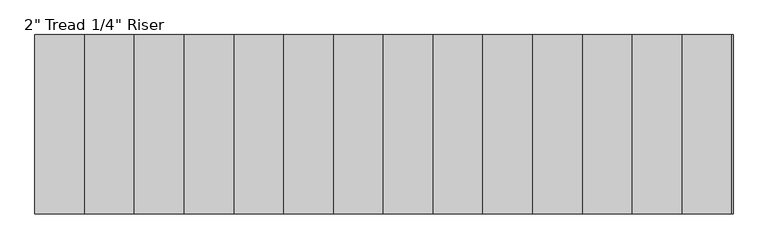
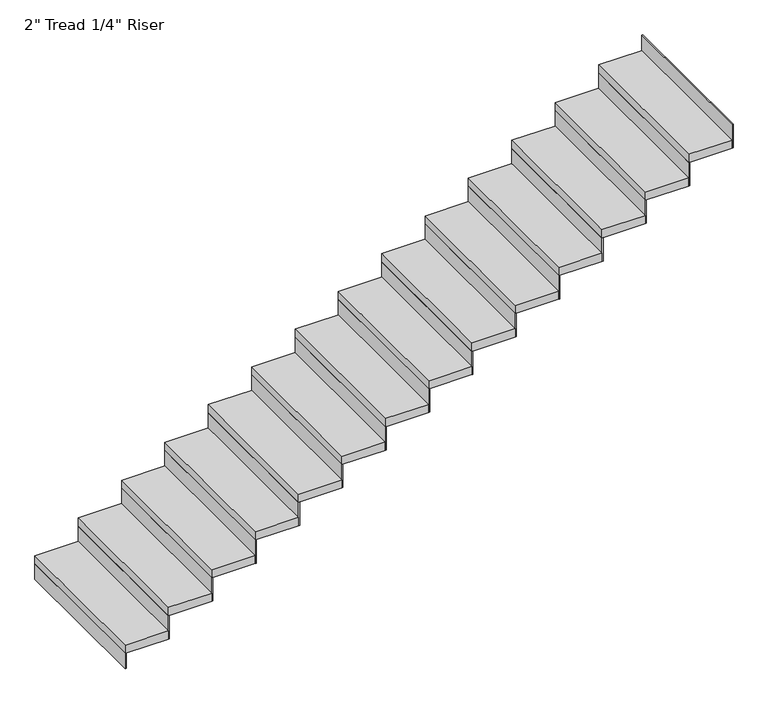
"""IFC4 building model written with IfcOpenShell, lengths in millimetres: stair flight geometry."""

import ifcopenshell
import ifcopenshell.guid

model = None  # the IFC model being written
_history = None  # IfcOwnerHistory: only IFC2X3 demands one
_inside = {}  # id of a spatial element -> (the spatial element, [elements in it])
_under = {}  # id of a project, library or spatial element -> (it, [spatial elements below it])
_declared = {}  # id of a project -> (the project, [libraries it declares])
_typed = {}  # id of a type object -> (the type object, [elements of that type])
_made_of = {}  # id of a material, layer set ... -> (it, [elements and type objects made of it])


def new_model(schema):
    """Start an empty IFC model of exactly this schema.

    Asked for "IFC4X3", IfcOpenShell would pick the latest addendum, in which some entities
    have other attributes; the version numbers below select the first issue.
    IFC2X3 requires an IfcOwnerHistory on every rooted entity: one is made here for all.
    """
    global model, _history
    if schema == "IFC4X3":
        model = ifcopenshell.file(schema_version=(4, 3, 0, 0))
    else:
        model = ifcopenshell.file(schema=schema)
    _inside.clear()
    _under.clear()
    _declared.clear()
    _typed.clear()
    _made_of.clear()
    _history = None
    if model.schema == "IFC2X3":
        org = make("IfcOrganization", Name="unknown")
        user = make(
            "IfcPersonAndOrganization",
            ThePerson=make("IfcPerson", FamilyName="unknown"),
            TheOrganization=org,
        )
        app = make(
            "IfcApplication",
            ApplicationDeveloper=org,
            Version="unknown",
            ApplicationFullName="unknown",
            ApplicationIdentifier="unknown",
        )
        _history = make(
            "IfcOwnerHistory",
            OwningUser=user,
            OwningApplication=app,
            ChangeAction="ADDED",
            CreationDate=0,
        )
    return model


def make(cls, **values):
    """One entity of the class cls with the attributes given. An attribute that is None is left unset."""
    return model.create_entity(
        cls, **{name: value for name, value in values.items() if value is not None}
    )


def rooted(cls, **values):
    """An entity with a GlobalId (a new one), such as an element, a storey or a relation."""
    return make(cls, GlobalId=ifcopenshell.guid.new(), OwnerHistory=_history, **values)


def si_unit(unit_type, name, prefix=None):
    """IfcSIUnit, for example si_unit("LENGTHUNIT", "METRE", prefix="MILLI")."""
    return make("IfcSIUnit", UnitType=unit_type, Prefix=prefix, Name=name)


def assignment(units):
    """IfcUnitAssignment: the units of a project."""
    return None if units is None else make("IfcUnitAssignment", Units=units)


def point(xyz):
    """IfcCartesianPoint."""
    return None if xyz is None else make("IfcCartesianPoint", Coordinates=xyz)


def direction(xyz):
    """IfcDirection."""
    return None if xyz is None else make("IfcDirection", DirectionRatios=xyz)


def frame(location, z_axis=None, x_axis=None):
    """IfcAxis2Placement3D, a coordinate frame: its origin and axes. An axis left out is left unset."""
    return make(
        "IfcAxis2Placement3D",
        Location=point(location),
        Axis=direction(z_axis),
        RefDirection=direction(x_axis),
    )


def origin():
    """The frame at (0, 0, 0) with its axes left unset."""
    return frame((0.0, 0.0, 0.0))


def origin_with_axes():
    """The frame at (0, 0, 0) with the z axis (0, 0, 1) and the x axis (1, 0, 0) written out."""
    return frame((0.0, 0.0, 0.0), z_axis=(0.0, 0.0, 1.0), x_axis=(1.0, 0.0, 0.0))


def place(relative_to, where):
    """IfcLocalPlacement: puts the frame where relative to a parent placement (None: the world)."""
    return make(
        "IfcLocalPlacement", PlacementRelTo=relative_to, RelativePlacement=where
    )


def context(
    kind, dimensions, precision=None, world=None, true_north=None, identifier=None
):
    """IfcGeometricRepresentationContext, for example the 3D "Model" context."""
    return make(
        "IfcGeometricRepresentationContext",
        ContextIdentifier=identifier,
        ContextType=kind,
        CoordinateSpaceDimension=dimensions,
        Precision=precision,
        WorldCoordinateSystem=world,
        TrueNorth=true_north,
    )


def project(units=None, contexts=None):
    """IfcProject with its units and contexts."""
    return rooted(
        "IfcProject",
        Name="project",
        RepresentationContexts=contexts,
        UnitsInContext=assignment(units),
    )


def spatial(cls, under=None, at=None, **own):
    """A site, building, storey or space (cls), placed at a placement, below another one or the project."""
    s = rooted(cls, ObjectPlacement=at, **own)
    if under is not None:
        _under.setdefault(under.id(), (under, []))[1].append(s)
    return s


def polyline(points):
    """IfcPolyline through the points."""
    return make("IfcPolyline", Points=[point(p) for p in points])


def outline(outer, holes=None, kind="AREA"):
    """IfcArbitraryClosedProfileDef: a profile drawn as a closed curve; with holes, ...WithVoids."""
    if holes is None:
        return make("IfcArbitraryClosedProfileDef", ProfileType=kind, OuterCurve=outer)
    return make(
        "IfcArbitraryProfileDefWithVoids",
        ProfileType=kind,
        OuterCurve=outer,
        InnerCurves=holes,
    )


def extrude(swept, where, along, depth):
    """IfcExtrudedAreaSolid: the profile swept, set in the frame where, extruded along a direction by depth."""
    return make(
        "IfcExtrudedAreaSolid",
        SweptArea=swept,
        Position=where,
        ExtrudedDirection=direction(along),
        Depth=depth,
    )


def shape(context_of_items, identifier, shape_type, items):
    """IfcShapeRepresentation: the items that make up one representation, for example the "Body"."""
    return make(
        "IfcShapeRepresentation",
        ContextOfItems=context_of_items,
        RepresentationIdentifier=identifier,
        RepresentationType=shape_type,
        Items=items,
    )


def source(mapping_origin, context_of_items, identifier, shape_type, items):
    """IfcRepresentationMap: a shape defined once, which mapped items show again and again."""
    return make(
        "IfcRepresentationMap",
        MappingOrigin=mapping_origin,
        MappedRepresentation=shape(context_of_items, identifier, shape_type, items),
    )


def transform(
    local_origin,
    x_axis=None,
    y_axis=None,
    z_axis=None,
    scale=None,
    scale2=None,
    scale3=None,
    uniform=True,
):
    """IfcCartesianTransformationOperator3D, or its non-uniform kind. x_axis, y_axis, z_axis: its Axis1, 2, 3."""
    if uniform:
        return make(
            "IfcCartesianTransformationOperator3D",
            Axis1=direction(x_axis),
            Axis2=direction(y_axis),
            LocalOrigin=point(local_origin),
            Scale=scale,
            Axis3=direction(z_axis),
        )
    return make(
        "IfcCartesianTransformationOperator3DnonUniform",
        Axis1=direction(x_axis),
        Axis2=direction(y_axis),
        LocalOrigin=point(local_origin),
        Scale=scale,
        Axis3=direction(z_axis),
        Scale2=scale2,
        Scale3=scale3,
    )


def mapped(mapping_source, mapping_target):
    """IfcMappedItem: shows the shape of a source again, moved by a transform."""
    return make(
        "IfcMappedItem", MappingSource=mapping_source, MappingTarget=mapping_target
    )


def made_of(thing, what):
    """Note that an element or type object is made of a material, layer set ...; save() writes the relation."""
    if what is not None:
        _made_of.setdefault(what.id(), (what, []))[1].append(thing)
    return thing


def element(
    cls,
    number,
    at=None,
    inside=None,
    cuts=None,
    type_object=None,
    material=None,
    context=None,
    identifier="Body",
    shape_type=None,
    held_by="IfcProductDefinitionShape",
    body=None,
    shapes=None,
    **own,
):
    """One element of the class cls, such as IfcWall. Its Tag is "e" and its number.

    at: its placement. inside: the storey or other place that contains it. cuts: it is an
    opening in that element (IfcRelVoidsElement). A single representation is given by context,
    identifier, shape_type and body (its items); several are given by shapes. held_by: the class
    of the entity that holds the representations. save() writes the other relations.
    """
    e = rooted(cls, Tag="e%d" % number, ObjectPlacement=at, **own)
    if body is not None:
        shapes = [shape(context, identifier, shape_type, body)]
    if shapes is not None:
        e.Representation = make(held_by, Representations=shapes)
    if inside is not None:
        _inside.setdefault(inside.id(), (inside, []))[1].append(e)
    if cuts is not None:
        rooted(
            "IfcRelVoidsElement", RelatingBuildingElement=cuts, RelatedOpeningElement=e
        )
    if type_object is not None:
        _typed.setdefault(type_object.id(), (type_object, []))[1].append(e)
    return made_of(e, material)


def aggregate(whole, parts):
    """IfcRelAggregates: a whole, such as a stair, and the parts it consists of."""
    return rooted("IfcRelAggregates", RelatingObject=whole, RelatedObjects=parts)


def save(model, path):
    """Write the relations noted so far, then the file.

    IfcRelAggregates (storeys below a building ...), IfcRelContainedInSpatialStructure (elements
    in a storey), IfcRelDefinesByType, IfcRelAssociatesMaterial and IfcRelDeclares: one each for
    every whole, place, type object, material and project.
    """
    for whole, parts in _under.values():
        aggregate(whole, parts)
    for where, things in _inside.values():
        rooted(
            "IfcRelContainedInSpatialStructure",
            RelatedElements=things,
            RelatingStructure=where,
        )
    for kind, things in _typed.values():
        rooted("IfcRelDefinesByType", RelatedObjects=things, RelatingType=kind)
    for what, things in _made_of.values():
        rooted("IfcRelAssociatesMaterial", RelatedObjects=things, RelatingMaterial=what)
    for by, libraries in _declared.values():
        rooted("IfcRelDeclares", RelatingContext=by, RelatedDefinitions=libraries)
    model.write(path)


def stair_flight_18f07dfd(model_context):
    return source(origin(), model_context, "Body", "SweptSolid", [
        extrude(outline(polyline([(24312.3612561, -2366.2617549), (24306.0112561, -2366.2617549), (24306.0112561, -1451.8617549), (24312.3612561, -1451.8617549), (24312.3612561, -2366.2617549)])), origin_with_axes(), (0.0, 0.0, 1.0), 94.3428571),
        extrude(outline(polyline([(24560.0112561, -1451.8617549), (24560.0112561, -2366.2617549), (24306.0112561, -2366.2617549), (24306.0112561, -1451.8617549), (24560.0112561, -1451.8617549)])), frame((0.0, 0.0, 94.3428571), z_axis=(0.0, 0.0, 1.0), x_axis=(1.0, 0.0, 0.0)), (0.0, 0.0, 1.0), 50.8),
        extrude(outline(polyline([(24566.3612561, -2366.2617549), (24560.0112561, -2366.2617549), (24560.0112561, -1451.8617549), (24566.3612561, -1451.8617549), (24566.3612561, -2366.2617549)])), frame((0.0, 0.0, 94.3428571), z_axis=(0.0, 0.0, 1.0), x_axis=(1.0, 0.0, 0.0)), (0.0, 0.0, 1.0), 145.1428571),
        extrude(outline(polyline([(24814.0112561, -1451.8617549), (24814.0112561, -2366.2617549), (24560.0112561, -2366.2617549), (24560.0112561, -1451.8617549), (24814.0112561, -1451.8617549)])), frame((0.0, 0.0, 239.4857143), z_axis=(0.0, 0.0, 1.0), x_axis=(1.0, 0.0, 0.0)), (0.0, 0.0, 1.0), 50.8),
        extrude(outline(polyline([(24820.3612561, -2366.2617549), (24814.0112561, -2366.2617549), (24814.0112561, -1451.8617549), (24820.3612561, -1451.8617549), (24820.3612561, -2366.2617549)])), frame((0.0, 0.0, 239.4857143), z_axis=(0.0, 0.0, 1.0), x_axis=(1.0, 0.0, 0.0)), (0.0, 0.0, 1.0), 145.1428571),
        extrude(outline(polyline([(25068.0112561, -1451.8617549), (25068.0112561, -2366.2617549), (24814.0112561, -2366.2617549), (24814.0112561, -1451.8617549), (25068.0112561, -1451.8617549)])), frame((0.0, 0.0, 384.6285714), z_axis=(0.0, 0.0, 1.0), x_axis=(1.0, 0.0, 0.0)), (0.0, 0.0, 1.0), 50.8),
        extrude(outline(polyline([(25074.3612561, -2366.2617549), (25068.0112561, -2366.2617549), (25068.0112561, -1451.8617549), (25074.3612561, -1451.8617549), (25074.3612561, -2366.2617549)])), frame((0.0, 0.0, 384.6285714), z_axis=(0.0, 0.0, 1.0), x_axis=(1.0, 0.0, 0.0)), (0.0, 0.0, 1.0), 145.1428571),
        extrude(outline(polyline([(25322.0112561, -1451.8617549), (25322.0112561, -2366.2617549), (25068.0112561, -2366.2617549), (25068.0112561, -1451.8617549), (25322.0112561, -1451.8617549)])), frame((0.0, 0.0, 529.7714286), z_axis=(0.0, 0.0, 1.0), x_axis=(1.0, 0.0, 0.0)), (0.0, 0.0, 1.0), 50.8),
        extrude(outline(polyline([(25328.3612561, -2366.2617549), (25322.0112561, -2366.2617549), (25322.0112561, -1451.8617549), (25328.3612561, -1451.8617549), (25328.3612561, -2366.2617549)])), frame((0.0, 0.0, 529.7714286), z_axis=(0.0, 0.0, 1.0), x_axis=(1.0, 0.0, 0.0)), (0.0, 0.0, 1.0), 145.1428571),
        extrude(outline(polyline([(25576.0112561, -1451.8617549), (25576.0112561, -2366.2617549), (25322.0112561, -2366.2617549), (25322.0112561, -1451.8617549), (25576.0112561, -1451.8617549)])), frame((0.0, 0.0, 674.9142857), z_axis=(0.0, 0.0, 1.0), x_axis=(1.0, 0.0, 0.0)), (0.0, 0.0, 1.0), 50.8),
        extrude(outline(polyline([(25582.3612561, -2366.2617549), (25576.0112561, -2366.2617549), (25576.0112561, -1451.8617549), (25582.3612561, -1451.8617549), (25582.3612561, -2366.2617549)])), frame((0.0, 0.0, 674.9142857), z_axis=(0.0, 0.0, 1.0), x_axis=(1.0, 0.0, 0.0)), (0.0, 0.0, 1.0), 145.1428571),
        extrude(outline(polyline([(25830.0112561, -1451.8617549), (25830.0112561, -2366.2617549), (25576.0112561, -2366.2617549), (25576.0112561, -1451.8617549), (25830.0112561, -1451.8617549)])), frame((0.0, 0.0, 820.0571429), z_axis=(0.0, 0.0, 1.0), x_axis=(1.0, 0.0, 0.0)), (0.0, 0.0, 1.0), 50.8),
        extrude(outline(polyline([(25836.3612561, -2366.2617549), (25830.0112561, -2366.2617549), (25830.0112561, -1451.8617549), (25836.3612561, -1451.8617549), (25836.3612561, -2366.2617549)])), frame((0.0, 0.0, 820.0571429), z_axis=(0.0, 0.0, 1.0), x_axis=(1.0, 0.0, 0.0)), (0.0, 0.0, 1.0), 145.1428571),
        extrude(outline(polyline([(26084.0112561, -1451.8617549), (26084.0112561, -2366.2617549), (25830.0112561, -2366.2617549), (25830.0112561, -1451.8617549), (26084.0112561, -1451.8617549)])), frame((0.0, 0.0, 965.2), z_axis=(0.0, 0.0, 1.0), x_axis=(1.0, 0.0, 0.0)), (0.0, 0.0, 1.0), 50.8),
        extrude(outline(polyline([(26090.3612561, -2366.2617549), (26084.0112561, -2366.2617549), (26084.0112561, -1451.8617549), (26090.3612561, -1451.8617549), (26090.3612561, -2366.2617549)])), frame((0.0, 0.0, 965.2), z_axis=(0.0, 0.0, 1.0), x_axis=(1.0, 0.0, 0.0)), (0.0, 0.0, 1.0), 145.1428571),
        extrude(outline(polyline([(26338.0112561, -1451.8617549), (26338.0112561, -2366.2617549), (26084.0112561, -2366.2617549), (26084.0112561, -1451.8617549), (26338.0112561, -1451.8617549)])), frame((0.0, 0.0, 1110.3428571), z_axis=(0.0, 0.0, 1.0), x_axis=(1.0, 0.0, 0.0)), (0.0, 0.0, 1.0), 50.8),
        extrude(outline(polyline([(26344.3612561, -2366.2617549), (26338.0112561, -2366.2617549), (26338.0112561, -1451.8617549), (26344.3612561, -1451.8617549), (26344.3612561, -2366.2617549)])), frame((0.0, 0.0, 1110.3428571), z_axis=(0.0, 0.0, 1.0), x_axis=(1.0, 0.0, 0.0)), (0.0, 0.0, 1.0), 145.1428571),
        extrude(outline(polyline([(26592.0112561, -1451.8617549), (26592.0112561, -2366.2617549), (26338.0112561, -2366.2617549), (26338.0112561, -1451.8617549), (26592.0112561, -1451.8617549)])), frame((0.0, 0.0, 1255.4857143), z_axis=(0.0, 0.0, 1.0), x_axis=(1.0, 0.0, 0.0)), (0.0, 0.0, 1.0), 50.8),
        extrude(outline(polyline([(26598.3612561, -2366.2617549), (26592.0112561, -2366.2617549), (26592.0112561, -1451.8617549), (26598.3612561, -1451.8617549), (26598.3612561, -2366.2617549)])), frame((0.0, 0.0, 1255.4857143), z_axis=(0.0, 0.0, 1.0), x_axis=(1.0, 0.0, 0.0)), (0.0, 0.0, 1.0), 145.1428571),
        extrude(outline(polyline([(26846.0112561, -1451.8617549), (26846.0112561, -2366.2617549), (26592.0112561, -2366.2617549), (26592.0112561, -1451.8617549), (26846.0112561, -1451.8617549)])), frame((0.0, 0.0, 1400.6285714), z_axis=(0.0, 0.0, 1.0), x_axis=(1.0, 0.0, 0.0)), (0.0, 0.0, 1.0), 50.8),
        extrude(outline(polyline([(26852.3612561, -2366.2617549), (26846.0112561, -2366.2617549), (26846.0112561, -1451.8617549), (26852.3612561, -1451.8617549), (26852.3612561, -2366.2617549)])), frame((0.0, 0.0, 1400.6285714), z_axis=(0.0, 0.0, 1.0), x_axis=(1.0, 0.0, 0.0)), (0.0, 0.0, 1.0), 145.1428571),
        extrude(outline(polyline([(27100.0112561, -1451.8617549), (27100.0112561, -2366.2617549), (26846.0112561, -2366.2617549), (26846.0112561, -1451.8617549), (27100.0112561, -1451.8617549)])), frame((0.0, 0.0, 1545.7714286), z_axis=(0.0, 0.0, 1.0), x_axis=(1.0, 0.0, 0.0)), (0.0, 0.0, 1.0), 50.8),
        extrude(outline(polyline([(27106.3612561, -2366.2617549), (27100.0112561, -2366.2617549), (27100.0112561, -1451.8617549), (27106.3612561, -1451.8617549), (27106.3612561, -2366.2617549)])), frame((0.0, 0.0, 1545.7714286), z_axis=(0.0, 0.0, 1.0), x_axis=(1.0, 0.0, 0.0)), (0.0, 0.0, 1.0), 145.1428571),
        extrude(outline(polyline([(27354.0112561, -1451.8617549), (27354.0112561, -2366.2617549), (27100.0112561, -2366.2617549), (27100.0112561, -1451.8617549), (27354.0112561, -1451.8617549)])), frame((0.0, 0.0, 1690.9142857), z_axis=(0.0, 0.0, 1.0), x_axis=(1.0, 0.0, 0.0)), (0.0, 0.0, 1.0), 50.8),
        extrude(outline(polyline([(27360.3612561, -2366.2617549), (27354.0112561, -2366.2617549), (27354.0112561, -1451.8617549), (27360.3612561, -1451.8617549), (27360.3612561, -2366.2617549)])), frame((0.0, 0.0, 1690.9142857), z_axis=(0.0, 0.0, 1.0), x_axis=(1.0, 0.0, 0.0)), (0.0, 0.0, 1.0), 145.1428571),
        extrude(outline(polyline([(27608.0112561, -1451.8617549), (27608.0112561, -2366.2617549), (27354.0112561, -2366.2617549), (27354.0112561, -1451.8617549), (27608.0112561, -1451.8617549)])), frame((0.0, 0.0, 1836.0571429), z_axis=(0.0, 0.0, 1.0), x_axis=(1.0, 0.0, 0.0)), (0.0, 0.0, 1.0), 50.8),
        extrude(outline(polyline([(27614.3612561, -2366.2617549), (27608.0112561, -2366.2617549), (27608.0112561, -1451.8617549), (27614.3612561, -1451.8617549), (27614.3612561, -2366.2617549)])), frame((0.0, 0.0, 1836.0571429), z_axis=(0.0, 0.0, 1.0), x_axis=(1.0, 0.0, 0.0)), (0.0, 0.0, 1.0), 145.1428571),
        extrude(outline(polyline([(27868.3612561, -2366.2617549), (27862.0112561, -2366.2617549), (27862.0112561, -1451.8617549), (27868.3612561, -1451.8617549), (27868.3612561, -2366.2617549)])), frame((0.0, 0.0, 1981.2), z_axis=(0.0, 0.0, 1.0), x_axis=(1.0, 0.0, 0.0)), (0.0, 0.0, 1.0), 145.1428571),
        extrude(outline(polyline([(27862.0112561, -1451.8617549), (27862.0112561, -2366.2617549), (27608.0112561, -2366.2617549), (27608.0112561, -1451.8617549), (27862.0112561, -1451.8617549)])), frame((0.0, 0.0, 1981.2), z_axis=(0.0, 0.0, 1.0), x_axis=(1.0, 0.0, 0.0)), (0.0, 0.0, 1.0), 50.8),
    ])


if __name__ == "__main__":
    model = new_model("IFC4")
    model_context = context("Model", 3, world=origin())
    ifc_project = project(units=[si_unit("LENGTHUNIT", "METRE", prefix="MILLI")], contexts=[model_context])
    site = spatial("IfcSite", under=ifc_project)
    building = spatial("IfcBuilding", under=site)
    placement = place(None, origin())
    stair_flight_shape = stair_flight_18f07dfd(model_context)
    element("IfcStairFlight", 1, ObjectType="2\" Tread 1/4\" Riser", at=placement, inside=building, context=model_context, shape_type="MappedRepresentation", body=[
        mapped(stair_flight_shape, transform((0.0, 0.0, 0.0), x_axis=(1.0, 0.0, 0.0), y_axis=(0.0, 1.0, 0.0), z_axis=(0.0, 0.0, 1.0))),
    ])
    save(model, "model.ifc")
